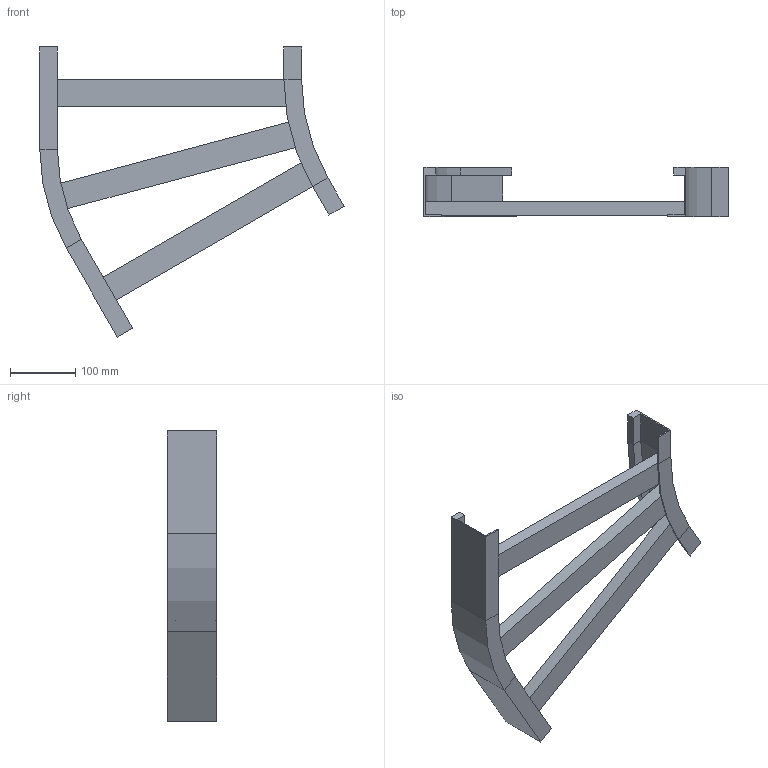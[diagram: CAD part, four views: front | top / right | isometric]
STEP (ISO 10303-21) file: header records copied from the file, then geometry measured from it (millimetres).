
FILE_DESCRIPTION (( 'STEP AP214' ), '1' );
FILE_NAME ('B2_12B3C400.step', '2025-02-21T15:11:14', ( '' ), ( '' ), 'SwSTEP 2.0', 'SolidWorks 2023', '' );
FILE_SCHEMA (( 'AUTOMOTIVE_DESIGN' ));
Length unit declared in the file: millimetre
Products named in the file (5): TRAVERSINO_400; B2_12B3C400; B2_LONGH.ESTERNO 30°_H75_R300+400; TRAVERSINO_L409; B2_LONGH.INTERNO 30°_H75_R300
Assembly tree (5 placements, depth 2):
  B2_12B3C400
    B2_LONGH.INTERNO 30°_H75_R300
    B2_LONGH.ESTERNO 30°_H75_R300+400
    TRAVERSINO_400  x2
    TRAVERSINO_L409
Bounding box: 465.19 x 75 x 443.3 mm (x, y, z)
Volume: 1258389.3 mm3; surface area: 323679.4 mm2
Topology: 5 solids, 5 shells, 70 faces, 148 edges, 88 vertices
Faces by surface type: plane 62, cylinder 8
Entity records: 1822 total; most frequent: DIRECTION 296, CARTESIAN_POINT 288, ORIENTED_EDGE 272, EDGE_CURVE 136, LINE 120, VECTOR 120, AXIS2_PLACEMENT_3D 88, VERTEX_POINT 80
